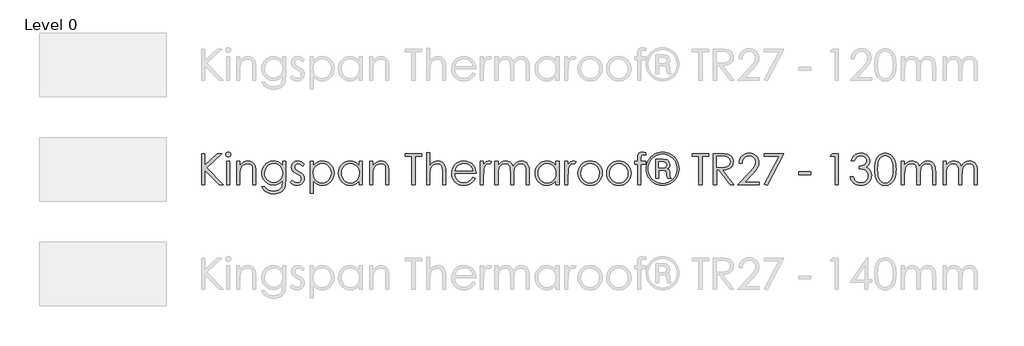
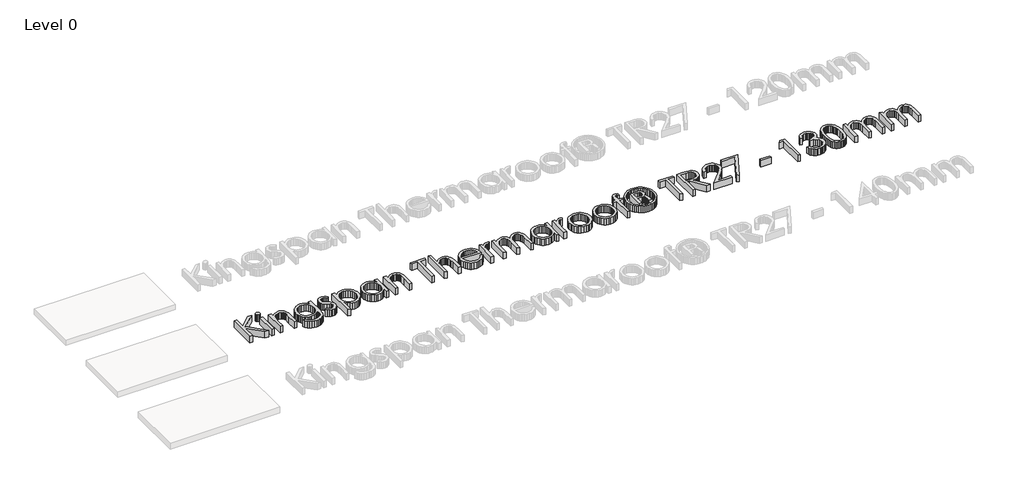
# One storey, part 5 of 12: 1 proxy.
"""IFC4 building model written with IfcOpenShell, lengths in millimetres."""

from ifc_helpers import new_model, si_unit, origin, origin_with_axes, place, context, project, spatial, polyline, outline, extrude, element, save

model = new_model("IFC4")

# Units and contexts
model_context = context("Model", 3, world=origin())
ifc_project = project(units=[si_unit("LENGTHUNIT", "METRE", prefix="MILLI")], contexts=[model_context])

# Site, building, storey
site = spatial("IfcSite", under=ifc_project)
building = spatial("IfcBuilding", under=site)
storey = spatial("IfcBuildingStorey", under=building, Name="Level 0", Elevation=0.0)

# Proxy
placement = place(None, origin())
element("IfcBuildingElementProxy", 1, Name="600mm KI_CenturyGothic", ObjectType="600mm KI_CenturyGothic", at=placement, inside=storey, context=model_context, shape_type="SweptSolid", body=[
    extrude(outline(polyline([(-3852.2663848, -7959.1038452), (-3792.944575, -7959.1038452), (-3792.944575, -8178.3164705), (-3555.1938841, -7959.1038452), (-3471.6181051, -7959.1038452), (-3760.9664119, -8226.0519894), (-3441.9572002, -8552.3219434), (-3520.8984627, -8552.3219434), (-3792.944575, -8274.096476), (-3792.944575, -8552.3219434), (-3852.2663848, -8552.3219434), (-3852.2663848, -7959.1038452)])), origin_with_axes(), (0.0, 0.0, 1.0), 150.0),
    extrude(outline(polyline([(-3348.1854852, -7929.4429403), (-3329.145347, -7932.7257227), (-3313.1176445, -7942.57407), (-3302.226531, -7957.0183128), (-3298.5961598, -7974.0887815), (-3302.226531, -7990.9275244), (-3313.1176445, -8005.2945252), (-3329.145347, -8015.1428726), (-3348.1854852, -8018.425655), (-3366.9938975, -8015.1428726), (-3382.9443581, -8005.2945252), (-3393.8354717, -7990.9275244), (-3397.4658428, -7974.0887815), (-3393.8354717, -7957.0183128), (-3382.9443581, -7942.57407), (-3366.9938975, -7932.7257227), (-3348.1854852, -7929.4429403)])), origin_with_axes(), (0.0, 0.0, 1.0), 150.0),
    extrude(outline(polyline([(-3377.6919062, -8107.4083697), (-3318.3700964, -8107.4083697), (-3318.3700964, -8552.3219434), (-3377.6919062, -8552.3219434), (-3377.6919062, -8107.4083697)])), origin_with_axes(), (0.0, 0.0, 1.0), 150.0),
    extrude(outline(polyline([(-3189.8395084, -8107.4083697), (-3130.5176986, -8107.4083697), (-3130.5176986, -8186.5041162), (-3096.9946967, -8146.9948639), (-3060.0730495, -8119.3036285), (-3019.7141359, -8102.9669582), (-2975.879335, -8097.5214014), (-2953.4357238, -8099.1000336), (-2932.2955704, -8103.83593), (-2912.4588747, -8111.7290907), (-2893.9256368, -8122.7795158), (-2877.212412, -8136.504443), (-2862.835756, -8152.4211102), (-2841.0921499, -8190.8296648), (-2833.6238199, -8215.2091521), (-2828.2892984, -8245.5555792), (-2824.0216812, -8324.149253), (-2824.0216812, -8552.3219434), (-2883.343491, -8552.3219434), (-2883.343491, -8339.1341894), (-2883.343491, -8236.0934416), (-2884.7290183, -8215.2960493), (-2889.8125035, -8197.2407458), (-2898.2849788, -8181.9275312), (-2910.1464442, -8169.3564055), (-2924.7403432, -8159.5563344), (-2941.4101193, -8152.5562836), (-2980.977303, -8146.956243), (-3005.3471351, -8149.1141896), (-3028.4038541, -8155.5880297), (-3050.1474602, -8166.3777632), (-3070.5779533, -8181.4833901), (-3088.6622225, -8199.7655917), (-3103.3671568, -8220.0850495), (-3114.6927562, -8242.4417635), (-3122.6390208, -8266.8357336), (-3128.5480292, -8313.914696), (-3130.5176986, -8388.414547), (-3130.5176986, -8552.3219434), (-3189.8395084, -8552.3219434), (-3189.8395084, -8107.4083697)])), origin_with_axes(), (0.0, 0.0, 1.0), 150.0),
    extrude(outline(polyline([(-2319.7862977, -8107.4083697), (-2260.4644879, -8107.4083697), (-2260.4644879, -8458.3957445), (-2264.5196897, -8538.6501201), (-2269.588692, -8569.4503436), (-2276.6852953, -8594.0325909), (-2289.9371156, -8622.645902), (-2307.2924139, -8647.7736706), (-2328.7511904, -8669.4158966), (-2354.3134448, -8687.5725801), (-2383.3226209, -8701.9347533), (-2415.122162, -8712.1934485), (-2449.7120682, -8718.3486656), (-2487.0923395, -8720.4004046), (-2541.0458345, -8716.3838237), (-2589.206184, -8704.3340811), (-2630.260275, -8685.5063582), (-2662.8949946, -8661.1558367), (-2690.2000204, -8627.8066292), (-2715.2650299, -8581.9828483), (-2655.94322, -8581.9828483), (-2642.4355358, -8603.1519675), (-2627.0933555, -8621.3955481), (-2609.9166791, -8636.7135903), (-2590.9055067, -8649.1060941), (-2569.7894914, -8658.6696118), (-2546.2982864, -8665.5006958), (-2492.1903075, -8670.9655631), (-2438.5071593, -8665.6358692), (-2415.083541, -8658.9737519), (-2393.93856, -8649.6467877), (-2359.6624492, -8625.6052339), (-2336.8567664, -8596.1181233), (-2329.3884364, -8577.4786777), (-2324.0539149, -8553.7702298), (-2319.7862977, -8491.146327), (-2319.7862977, -8468.4371967), (-2354.757586, -8504.2195254), (-2396.6420279, -8530.6169583), (-2443.392712, -8546.8956971), (-2492.9627269, -8552.3219434), (-2522.4063889, -8550.4246883), (-2550.9521133, -8544.7329228), (-2578.5999001, -8535.2466471), (-2605.3497494, -8521.965861), (-2630.1540674, -8505.4747069), (-2651.9652601, -8486.3573268), (-2670.7833277, -8464.6137207), (-2686.6082702, -8440.2438887), (-2699.1456025, -8413.9285253), (-2708.1008399, -8386.3483251), (-2713.4739824, -8357.5032882), (-2715.2650299, -8327.3934145), (-2713.3967404, -8297.1049188), (-2707.7918722, -8267.8784998), (-2698.4504251, -8239.7141575), (-2685.3723991, -8212.6118918), (-2668.9971079, -8187.4261918), (-2649.7638648, -8165.0115464), (-2627.67267, -8145.3679556), (-2602.7235235, -8128.4954193), (-2575.9833294, -8114.9442865), (-2548.5189922, -8105.2649059), (-2520.3305117, -8099.4572776), (-2491.4178881, -8097.5214014), (-2444.5320306, -8102.4648856), (-2400.8903346, -8117.295338), (-2359.6045177, -8143.8665654), (-2319.7862977, -8184.0323741), (-2319.7862977, -8107.4083697)]), holes=[polyline([(-2484.1571458, -8146.956243), (-2529.0154023, -8152.9811143), (-2570.5908765, -8171.0557282), (-2606.2187212, -8199.7704193), (-2633.2340897, -8237.7155223), (-2650.2659375, -8281.9944643), (-2655.94322, -8329.7106727), (-2653.0080263, -8365.6233471), (-2644.2024452, -8398.2822048), (-2629.5264766, -8427.6872458), (-2608.9801206, -8453.8384701), (-2583.7606272, -8475.2972465), (-2555.0652466, -8490.6249439), (-2522.8939786, -8499.8215624), (-2487.2468234, -8502.8871019), (-2451.3244937, -8499.8457005), (-2419.1001219, -8490.7214964), (-2390.573708, -8475.5144895), (-2365.7452519, -8454.2246798), (-2345.6382095, -8427.9817307), (-2331.2760363, -8397.9153056), (-2322.6587323, -8364.0254045), (-2319.7862977, -8326.3120273), (-2325.0773706, -8277.6109843), (-2340.9505892, -8234.3941189), (-2366.4983608, -8198.1676491), (-2400.8130926, -8170.4377927), (-2440.9982119, -8152.8266304), (-2484.1571458, -8146.956243)])]), origin_with_axes(), (0.0, 0.0, 1.0), 150.0),
    extrude(outline(polyline([(-1904.5336289, -8158.6970178), (-1940.9918246, -8196.3910845), (-1962.9575012, -8174.7633413), (-1984.6721416, -8159.3149533), (-2006.1357456, -8150.0459205), (-2027.3483133, -8146.956243), (-2052.181597, -8151.6293803), (-2073.2300256, -8165.6487924), (-2087.5970264, -8185.8861806), (-2092.3860267, -8209.2132465), (-2088.4466878, -8230.7637477), (-2076.628671, -8251.2328618), (-2052.0657341, -8273.4012985), (-2010.2006027, -8299.1228645), (-1958.3326401, -8331.9893099), (-1939.8428507, -8347.8142524), (-1926.315856, -8363.2336746), (-1909.9791857, -8395.9070152), (-1904.5336289, -8432.4424527), (-1906.9474396, -8458.5888494), (-1914.1888714, -8482.6497136), (-1926.2579245, -8504.6250455), (-1943.1545989, -8524.5148451), (-1963.6719892, -8541.0059992), (-1986.6031901, -8552.7853951), (-2011.9482016, -8559.8530326), (-2039.7070237, -8562.2089117), (-2077.4397114, -8558.3275042), (-2113.3958344, -8546.6832818), (-2145.4512394, -8528.2031477), (-2171.4817731, -8503.8140052), (-2135.7959969, -8463.3392287), (-2114.0041146, -8484.9669718), (-2091.5749863, -8500.4153598), (-2068.5086121, -8509.6843926), (-2044.8049918, -8512.7740702), (-2013.637869, -8507.1354086), (-1987.4914724, -8490.2194238), (-1969.7644472, -8465.6564869), (-1963.8554388, -8437.0769691), (-1967.7561567, -8413.2864516), (-1979.4583106, -8392.276644), (-2005.0253927, -8370.5716589), (-2050.2119275, -8343.7687058), (-2099.762632, -8313.1036556), (-2117.441381, -8297.9449249), (-2130.3890611, -8282.9020571), (-2146.3781427, -8250.7694101), (-2151.7078365, -8214.3112145), (-2149.5305794, -8190.2648331), (-2142.9988078, -8168.3329498), (-2132.1125219, -8148.5155646), (-2116.8717217, -8130.8126775), (-2098.309518, -8116.2477442), (-2077.4590218, -8105.8442205), (-2054.3202332, -8099.6021062), (-2028.8931521, -8097.5214014), (-1997.9481, -8101.3448775), (-1966.9064954, -8112.8153055), (-1935.7683384, -8131.9326856), (-1904.5336289, -8158.6970178)])), origin_with_axes(), (0.0, 0.0, 1.0), 150.0),
    extrude(outline(polyline([(-1795.7769776, -8107.4083697), (-1736.4551678, -8107.4083697), (-1736.4551678, -8188.5124066), (-1700.9238754, -8148.2693559), (-1660.4490989, -8119.921564), (-1614.9922173, -8103.1214421), (-1564.5146096, -8097.5214014), (-1520.0618732, -8101.7600529), (-1478.9305402, -8114.4760072), (-1441.1206107, -8135.6692645), (-1406.6320845, -8165.3398246), (-1377.9077381, -8200.9773247), (-1357.3903478, -8240.0714015), (-1345.0799137, -8282.6220551), (-1340.9764356, -8328.6292855), (-1345.0412927, -8375.5296259), (-1357.235864, -8418.7513189), (-1377.5601494, -8458.2943645), (-1406.014149, -8494.1587627), (-1440.2130179, -8523.9307029), (-1477.7719111, -8545.1963745), (-1518.6908288, -8557.9557774), (-1562.9697708, -8562.2089117), (-1612.6170277, -8556.7440445), (-1658.0545988, -8540.3494427), (-1699.3211052, -8513.1023484), (-1736.4551678, -8475.0800035), (-1736.4551678, -8710.5134363), (-1795.7769776, -8710.5134363), (-1795.7769776, -8107.4083697)]), holes=[polyline([(-1568.5311905, -8146.956243), (-1602.5852307, -8150.2535083), (-1633.8392507, -8160.1453042), (-1662.2932503, -8176.6316307), (-1687.9472295, -8199.7124879), (-1709.1694525, -8227.6982082), (-1724.3281832, -8258.8991243), (-1733.4234216, -8293.3152362), (-1736.4551678, -8330.9465437), (-1731.048232, -8379.8020707), (-1714.8274246, -8423.4823877), (-1688.5265441, -8460.326793), (-1652.8793888, -8488.674585), (-1611.4390881, -8506.7491989), (-1567.7587711, -8512.7740702), (-1525.0632888, -8506.7105779), (-1485.0326535, -8488.5201011), (-1450.2544701, -8459.4192002), (-1423.3163435, -8420.6244359), (-1406.05277, -8375.9592842), (-1400.2982454, -8329.2472211), (-1405.9948385, -8282.3034321), (-1423.0846177, -8237.8700062), (-1449.8103289, -8199.519383), (-1484.414718, -8170.8240024), (-1524.7157001, -8152.9231828), (-1568.5311905, -8146.956243)])]), origin_with_axes(), (0.0, 0.0, 1.0), 150.0),
    extrude(outline(polyline([(-807.0801472, -8107.4083697), (-807.0801472, -8552.3219434), (-866.401957, -8552.3219434), (-866.401957, -8476.4703585), (-903.4780882, -8514.318909), (-944.8797679, -8541.0446202), (-990.4525125, -8556.9178388), (-1040.0418379, -8562.2089117), (-1084.3159523, -8557.9557774), (-1125.2203871, -8545.1963745), (-1162.7551422, -8523.9307029), (-1196.9202178, -8494.1587627), (-1225.340424, -8458.2943645), (-1245.6405713, -8418.7513189), (-1257.8206597, -8375.5296259), (-1261.8806892, -8328.6292855), (-1257.7820388, -8282.6220551), (-1245.4860875, -8240.0714015), (-1224.9928353, -8200.9773247), (-1196.3022822, -8165.3398246), (-1161.8475494, -8135.6692645), (-1124.061758, -8114.4760072), (-1082.9449079, -8101.7600529), (-1038.4969991, -8097.5214014), (-987.7490446, -8103.1214421), (-942.0990581, -8119.921564), (-921.2051134, -8132.6085526), (-901.6242816, -8148.2693559), (-866.401957, -8188.5124066), (-866.401957, -8107.4083697), (-807.0801472, -8107.4083697)]), holes=[polyline([(-1034.3259343, -8146.956243), (-1078.1414247, -8152.9231828), (-1118.4424068, -8170.8240024), (-1153.0467959, -8199.519383), (-1179.7725071, -8237.8700062), (-1196.8622863, -8282.3034321), (-1202.5588794, -8329.2472211), (-1196.8043548, -8375.9592842), (-1179.5407813, -8420.6244359), (-1152.6026548, -8459.4192002), (-1117.8244713, -8488.5201011), (-1077.6779731, -8506.7105779), (-1034.6349021, -8512.7740702), (-991.0125165, -8506.7491989), (-949.7460102, -8488.674585), (-914.2726493, -8460.326793), (-888.0297002, -8423.4823877), (-871.8088928, -8379.8020707), (-866.401957, -8330.9465437), (-869.4337032, -8293.3152362), (-878.5289416, -8258.8991243), (-893.6876723, -8227.6982082), (-914.9098953, -8199.7124879), (-940.5638746, -8176.6316307), (-969.0178742, -8160.1453042), (-1000.2718941, -8150.2535083), (-1034.3259343, -8146.956243)])]), origin_with_axes(), (0.0, 0.0, 1.0), 150.0),
    extrude(outline(polyline([(-668.662591, -8107.4083697), (-609.3407811, -8107.4083697), (-609.3407811, -8186.5041162), (-575.8177792, -8146.9948639), (-538.896132, -8119.3036285), (-498.5372184, -8102.9669582), (-454.7024175, -8097.5214014), (-432.2588064, -8099.1000336), (-411.1186529, -8103.83593), (-391.2819572, -8111.7290907), (-372.7487193, -8122.7795158), (-356.0354946, -8136.504443), (-341.6588385, -8152.4211102), (-319.9152324, -8190.8296648), (-312.4469024, -8215.2091521), (-307.1123809, -8245.5555792), (-302.8447637, -8324.149253), (-302.8447637, -8552.3219434), (-362.1665735, -8552.3219434), (-362.1665735, -8339.1341894), (-362.1665735, -8236.0934416), (-363.5521008, -8215.2960493), (-368.635586, -8197.2407458), (-377.1080613, -8181.9275312), (-388.9695267, -8169.3564055), (-403.5634257, -8159.5563344), (-420.2332018, -8152.5562836), (-459.8003855, -8146.956243), (-484.1702176, -8149.1141896), (-507.2269366, -8155.5880297), (-528.9705427, -8166.3777632), (-549.4010358, -8181.4833901), (-567.485305, -8199.7655917), (-582.1902393, -8220.0850495), (-593.5158387, -8242.4417635), (-601.4621033, -8266.8357336), (-607.3711117, -8313.914696), (-609.3407811, -8388.414547), (-609.3407811, -8552.3219434), (-668.662591, -8552.3219434), (-668.662591, -8107.4083697)])), origin_with_axes(), (0.0, 0.0, 1.0), 150.0),
    extrude(outline(polyline([(3.6512537, -8008.5386867), (3.6512537, -7959.1038452), (320.0342394, -7959.1038452), (320.0342394, -8008.5386867), (191.5036515, -8008.5386867), (191.5036515, -8552.3219434), (132.1818417, -8552.3219434), (132.1818417, -8008.5386867), (3.6512537, -8008.5386867)])), origin_with_axes(), (0.0, 0.0, 1.0), 150.0),
    extrude(outline(polyline([(409.0169542, -7939.3299086), (468.338764, -7939.3299086), (468.338764, -8188.048955), (502.1128022, -8148.3465979), (539.1696229, -8120.0760479), (579.470605, -8103.160063), (622.9771276, -8097.5214014), (645.4207388, -8099.1000336), (666.5608922, -8103.83593), (686.3975879, -8111.7290907), (704.9308258, -8122.7795158), (721.6440506, -8136.4899601), (736.0207066, -8152.3631787), (757.7643127, -8190.597939), (765.2326428, -8214.9050119), (770.5671642, -8245.2659219), (774.8347814, -8324.149253), (774.8347814, -8552.3219434), (715.5129716, -8552.3219434), (715.5129716, -8339.1341894), (714.1226167, -8274.7530325), (709.9515519, -8236.0934416), (696.4342124, -8197.2407458), (686.7210385, -8181.9275312), (675.0381951, -8169.3564055), (661.3953375, -8159.5563344), (645.8021209, -8152.5562836), (608.7646107, -8146.956243), (585.8961689, -8149.1141896), (564.2539428, -8155.5880297), (543.8379326, -8166.3777632), (524.6481382, -8181.4833901), (507.659739, -8199.7655917), (493.8479146, -8220.0850495), (483.212665, -8242.4417635), (475.7539902, -8266.8357336), (470.1925705, -8313.6829702), (468.338764, -8388.414547), (468.338764, -8552.3219434), (409.0169542, -8552.3219434), (409.0169542, -7939.3299086)])), origin_with_axes(), (0.0, 0.0, 1.0), 150.0),
    extrude(outline(polyline([(1280.6150037, -8404.0174189), (1328.5050064, -8429.1982913), (1302.8799929, -8471.0827331), (1273.5859872, -8504.045731), (1240.5071264, -8529.130051), (1203.5275477, -8547.3784593), (1162.048626, -8558.5012986), (1115.4717363, -8562.2089117), (1063.9803281, -8557.7771554), (1018.4172388, -8544.4818865), (978.7824684, -8522.323105), (945.0760169, -8491.3008109), (918.1765113, -8454.6977867), (898.9625788, -8415.7968147), (887.4342193, -8374.597895), (883.5914328, -8331.1010276), (886.8742152, -8290.2207309), (896.7225625, -8251.6190715), (913.1364748, -8215.2960493), (936.1159519, -8181.2516643), (972.3038007, -8144.6196743), (1014.1303111, -8118.4539671), (1061.5954832, -8102.7545429), (1114.6993169, -8097.5214014), (1169.3479893, -8102.8897163), (1218.2035163, -8118.9946607), (1261.2658978, -8145.8362348), (1298.5351338, -8183.4144386), (1320.008393, -8215.5857065), (1335.456781, -8251.5418295), (1344.8802977, -8291.2828076), (1348.278943, -8334.8086407), (942.9132426, -8334.8086407), (946.6498214, -8372.0633939), (956.1602353, -8405.813294), (971.4444841, -8436.058341), (992.502568, -8462.7985351), (1017.86689, -8484.6628317), (1046.0698533, -8500.2801864), (1077.1114579, -8509.6505993), (1110.9917037, -8512.7740702), (1144.5147056, -8509.7616345), (1177.1108043, -8500.7243276), (1206.8489511, -8486.685605), (1231.7980977, -8468.6689225), (1255.2796474, -8442.5032154), (1280.6150037, -8404.0174189)]), holes=[polyline([(1288.9571332, -8285.3737992), (1274.5322009, -8242.8521113), (1254.7389538, -8209.831182), (1228.6311782, -8184.3027209), (1195.2626601, -8164.2584375), (1157.3175572, -8151.2817916), (1117.4800267, -8146.956243), (1085.0577224, -8149.6693661), (1054.9912973, -8157.8087355), (1027.2807514, -8171.3743512), (1001.9260846, -8190.3662132), (985.3866543, -8208.1801355), (970.9906877, -8229.9527073), (958.738185, -8255.6839286), (948.6291461, -8285.3737992), (1288.9571332, -8285.3737992)])]), origin_with_axes(), (0.0, 0.0, 1.0), 150.0),
    extrude(outline(polyline([(1427.3746895, -8107.4083697), (1486.6964993, -8107.4083697), (1486.6964993, -8171.8281476), (1512.2442709, -8138.7879078), (1539.1437765, -8115.6732573), (1567.317774, -8102.0593654), (1596.6890217, -8097.5214014), (1620.0160875, -8101.3062565), (1644.8879922, -8112.6608216), (1615.3815711, -8154.6804369), (1586.8020534, -8146.956243), (1560.3853099, -8152.9038723), (1534.8954698, -8170.7467604), (1512.8428959, -8201.1028428), (1496.7379515, -8244.590055), (1489.2068623, -8302.7146147), (1486.6964993, -8400.1553219), (1486.6964993, -8552.3219434), (1427.3746895, -8552.3219434), (1427.3746895, -8107.4083697)])), origin_with_axes(), (0.0, 0.0, 1.0), 150.0),
    extrude(outline(polyline([(1704.209802, -8107.4083697), (1763.5316118, -8107.4083697), (1763.5316118, -8183.5689225), (1793.1152748, -8147.0721059), (1823.4713571, -8121.9298544), (1866.8813274, -8103.6235147), (1912.4540719, -8097.5214014), (1943.2929164, -8100.6690105), (1972.4710592, -8110.1118376), (1998.2312461, -8124.7878062), (2018.8162231, -8143.6348395), (2035.5970345, -8169.0667482), (2049.9447249, -8203.4973429), (2064.7220735, -8179.0985452), (2081.247021, -8157.8087355), (2099.5195674, -8139.6279139), (2119.5397127, -8124.5560804), (2140.83435, -8112.7284083), (2162.9303724, -8104.2800712), (2185.82778, -8099.2110689), (2209.5265726, -8097.5214014), (2251.8551557, -8103.3338574), (2271.0497777, -8110.5994274), (2288.9312868, -8120.7712253), (2305.0458865, -8133.5402835), (2318.9397805, -8148.5976342), (2340.065451, -8185.5772129), (2347.3648143, -8208.9525549), (2352.5786453, -8237.5224175), (2356.74971, -8310.2457038), (2356.74971, -8552.3219434), (2297.4279002, -8552.3219434), (2297.4279002, -8306.6925746), (2294.9754686, -8245.5748897), (2287.6181738, -8207.1277141), (2274.3132497, -8182.6613297), (2254.01793, -8163.4860181), (2227.9487753, -8151.0886867), (2197.3223461, -8146.956243), (2177.6739277, -8148.5059094), (2158.894481, -8153.1549086), (2123.9425033, -8171.7509057), (2095.2085016, -8200.6973226), (2075.434565, -8237.9472481), (2068.743482, -8262.1046648), (2063.9641369, -8293.1752351), (2060.1406609, -8376.0558366), (2060.1406609, -8552.3219434), (2000.8188511, -8552.3219434), (2000.8188511, -8321.9864787), (1998.4050405, -8253.5308095), (1991.1636086, -8211.2987789), (1977.9166159, -8185.0558298), (1957.4861228, -8164.5674052), (1931.1659318, -8151.3590335), (1900.2498454, -8146.956243), (1863.3088876, -8153.0004247), (1828.801051, -8171.1329701), (1799.8353235, -8199.5000726), (1779.5206934, -8236.2479254), (1767.5288822, -8288.0772671), (1763.5316118, -8361.6888358), (1763.5316118, -8552.3219434), (1704.209802, -8552.3219434), (1704.209802, -8107.4083697)])), origin_with_axes(), (0.0, 0.0, 1.0), 150.0),
    extrude(outline(polyline([(2920.3069034, -8107.4083697), (2920.3069034, -8552.3219434), (2860.9850935, -8552.3219434), (2860.9850935, -8476.4703585), (2823.9089624, -8514.318909), (2782.5072826, -8541.0446202), (2736.9345381, -8556.9178388), (2687.3452127, -8562.2089117), (2643.0710983, -8557.9557774), (2602.1666635, -8545.1963745), (2564.6319083, -8523.9307029), (2530.4668328, -8494.1587627), (2502.0466266, -8458.2943645), (2481.7464792, -8418.7513189), (2469.5663908, -8375.5296259), (2465.5063614, -8328.6292855), (2469.6050118, -8282.6220551), (2481.9009631, -8240.0714015), (2502.3942153, -8200.9773247), (2531.0847683, -8165.3398246), (2565.5395011, -8135.6692645), (2603.3252926, -8114.4760072), (2644.4421427, -8101.7600529), (2688.8900515, -8097.5214014), (2739.638006, -8103.1214421), (2785.2879925, -8119.921564), (2806.1819372, -8132.6085526), (2825.7627689, -8148.2693559), (2860.9850935, -8188.5124066), (2860.9850935, -8107.4083697), (2920.3069034, -8107.4083697)]), holes=[polyline([(2693.0611162, -8146.956243), (2649.2456259, -8152.9231828), (2608.9446437, -8170.8240024), (2574.3402547, -8199.519383), (2547.6145435, -8237.8700062), (2530.5247643, -8282.3034321), (2524.8281712, -8329.2472211), (2530.5826957, -8375.9592842), (2547.8462693, -8420.6244359), (2574.7843958, -8459.4192002), (2609.5625792, -8488.5201011), (2649.7090775, -8506.7105779), (2692.7521485, -8512.7740702), (2736.374534, -8506.7491989), (2777.6410404, -8488.674585), (2813.1144013, -8460.326793), (2839.3573504, -8423.4823877), (2855.5781577, -8379.8020707), (2860.9850935, -8330.9465437), (2857.9533474, -8293.3152362), (2848.858109, -8258.8991243), (2833.6993783, -8227.6982082), (2812.4771553, -8199.7124879), (2786.823176, -8176.6316307), (2758.3691764, -8160.1453042), (2727.1151565, -8150.2535083), (2693.0611162, -8146.956243)])]), origin_with_axes(), (0.0, 0.0, 1.0), 150.0),
    extrude(outline(polyline([(3029.0635547, -8107.4083697), (3088.3853645, -8107.4083697), (3088.3853645, -8171.8281476), (3113.9331361, -8138.7879078), (3140.8326417, -8115.6732573), (3169.0066393, -8102.0593654), (3198.3778869, -8097.5214014), (3221.7049527, -8101.3062565), (3246.5768574, -8112.6608216), (3217.0704364, -8154.6804369), (3188.4909186, -8146.956243), (3162.0741752, -8152.9038723), (3136.584335, -8170.7467604), (3114.5317612, -8201.1028428), (3098.4268167, -8244.590055), (3090.8957276, -8302.7146147), (3088.3853645, -8400.1553219), (3088.3853645, -8552.3219434), (3029.0635547, -8552.3219434), (3029.0635547, -8107.4083697)])), origin_with_axes(), (0.0, 0.0, 1.0), 150.0),
    extrude(outline(polyline([(3508.7360013, -8097.5214014), (3558.0453247, -8102.1462626), (3602.932547, -8116.020846), (3643.3976682, -8139.1451518), (3679.4406884, -8171.5191798), (3706.340194, -8206.7511597), (3725.5541265, -8245.0921276), (3737.0824861, -8286.5420835), (3740.9252726, -8331.1010276), (3736.8604155, -8375.9158356), (3724.6658442, -8417.8244156), (3704.3415588, -8456.8267676), (3675.8875592, -8492.9228916), (3641.0514443, -8523.2355254), (3601.580813, -8544.8874067), (3557.4756654, -8557.8785355), (3508.7360013, -8562.2089117), (3459.8611639, -8557.8785355), (3415.6594638, -8544.8874067), (3376.130901, -8523.2355254), (3341.2754757, -8492.9228916), (3312.8214761, -8456.8267676), (3292.4971906, -8417.8244156), (3280.3026194, -8375.9158356), (3276.2377623, -8331.1010276), (3280.0805488, -8286.7351884), (3291.6089083, -8245.4010953), (3310.8228409, -8207.0987484), (3337.7223464, -8171.8281476), (3373.7846771, -8139.3189461), (3414.3077298, -8116.098088), (3459.2915046, -8102.1655731), (3508.7360013, -8097.5214014)]), holes=[polyline([(3508.5815174, -8146.956243), (3474.3054066, -8150.3307502), (3442.5396588, -8160.4542719), (3413.2842741, -8177.3268082), (3386.5392524, -8200.9483589), (3364.2356423, -8229.3589099), (3348.3044922, -8260.598447), (3338.7458021, -8294.6669701), (3335.5595721, -8331.5644793), (3341.3720281, -8379.2999981), (3358.809396, -8423.6368716), (3386.1530427, -8461.4274907), (3421.6843351, -8489.5242463), (3463.2211882, -8506.9616142), (3508.5815174, -8512.7740702), (3553.9418466, -8506.9616142), (3595.4786998, -8489.5242463), (3631.0099921, -8461.4274907), (3658.3536389, -8423.6368716), (3675.7910068, -8379.2999981), (3681.6034628, -8331.5644793), (3678.4027499, -8294.6669701), (3668.8006112, -8260.598447), (3652.7970468, -8229.3589099), (3630.3920566, -8200.9483589), (3603.5746206, -8177.3268082), (3574.3337188, -8160.4542719), (3542.669351, -8150.3307502), (3508.5815174, -8146.956243)])]), origin_with_axes(), (0.0, 0.0, 1.0), 150.0),
    extrude(outline(polyline([(4052.519258, -8097.5214014), (4101.8285814, -8102.1462626), (4146.7158037, -8116.020846), (4187.180925, -8139.1451518), (4223.2239452, -8171.5191798), (4250.1234507, -8206.7511597), (4269.3373833, -8245.0921276), (4280.8657428, -8286.5420835), (4284.7085293, -8331.1010276), (4280.6436722, -8375.9158356), (4268.4491009, -8417.8244156), (4248.1248155, -8456.8267676), (4219.6708159, -8492.9228916), (4184.834701, -8523.2355254), (4145.3640698, -8544.8874067), (4101.2589221, -8557.8785355), (4052.519258, -8562.2089117), (4003.6444206, -8557.8785355), (3959.4427205, -8544.8874067), (3919.9141578, -8523.2355254), (3885.0587324, -8492.9228916), (3856.6047328, -8456.8267676), (3836.2804474, -8417.8244156), (3824.0858761, -8375.9158356), (3820.021019, -8331.1010276), (3823.8638055, -8286.7351884), (3835.392165, -8245.4010953), (3854.6060976, -8207.0987484), (3881.5056031, -8171.8281476), (3917.5679338, -8139.3189461), (3958.0909865, -8116.098088), (4003.0747613, -8102.1655731), (4052.519258, -8097.5214014)]), holes=[polyline([(4052.3647741, -8146.956243), (4018.0886633, -8150.3307502), (3986.3229156, -8160.4542719), (3957.0675308, -8177.3268082), (3930.3225091, -8200.9483589), (3908.018899, -8229.3589099), (3892.0877489, -8260.598447), (3882.5290589, -8294.6669701), (3879.3428288, -8331.5644793), (3885.1552848, -8379.2999981), (3902.5926527, -8423.6368716), (3929.9362994, -8461.4274907), (3965.4675918, -8489.5242463), (4007.004445, -8506.9616142), (4052.3647741, -8512.7740702), (4097.7251033, -8506.9616142), (4139.2619565, -8489.5242463), (4174.7932489, -8461.4274907), (4202.1368956, -8423.6368716), (4219.5742635, -8379.2999981), (4225.3867195, -8331.5644793), (4222.1860066, -8294.6669701), (4212.5838679, -8260.598447), (4196.5803035, -8229.3589099), (4174.1753133, -8200.9483589), (4147.3578773, -8177.3268082), (4118.1169755, -8160.4542719), (4086.4526077, -8150.3307502), (4052.3647741, -8146.956243)])]), origin_with_axes(), (0.0, 0.0, 1.0), 150.0),
    extrude(outline(polyline([(4561.5436418, -7940.7202635), (4561.5436418, -7992.3178793), (4535.2813822, -7982.2378062), (4513.0357036, -7978.8777818), (4499.3059487, -7980.557794), (4488.086557, -7985.5978306), (4479.9761533, -7992.8199519), (4475.5733627, -8001.0462185), (4473.0243787, -8047.6231083), (4473.0243787, -8107.4083697), (4561.5436418, -8107.4083697), (4561.5436418, -8156.8432113), (4472.8698948, -8156.8432113), (4472.8698948, -8552.3219434), (4413.2391172, -8552.3219434), (4413.2391172, -8156.8432113), (4353.9173074, -8156.8432113), (4353.9173074, -8107.4083697), (4413.2391172, -8107.4083697), (4413.2391172, -8039.8989143), (4415.3246496, -8000.0613838), (4421.5812467, -7973.5480879), (4432.8392595, -7955.6279579), (4449.9290387, -7941.5699248), (4472.000923, -7932.4746864), (4498.2052511, -7929.4429403), (4527.2482205, -7932.2622711), (4561.5436418, -7940.7202635)])), origin_with_axes(), (0.0, 0.0, 1.0), 150.0),
    extrude(outline(polyline([(5194.3096132, -8245.2079905), (5191.7075254, -8287.1503638), (5183.9012619, -8327.5478984), (5170.8908226, -8366.4005941), (5152.6762077, -8403.7084511), (5129.9284564, -8438.3466335), (5103.3186081, -8469.1903056), (5072.8466628, -8496.2394674), (5038.5126205, -8519.494119), (5001.5958009, -8538.1818408), (4963.3755235, -8551.5302135), (4923.8517884, -8559.5392372), (4883.0245956, -8562.2089117), (4842.2649894, -8559.55372), (4802.7895305, -8551.588145), (4764.5982189, -8538.3121866), (4727.6910545, -8519.7258448), (4693.3425293, -8496.5580904), (4662.8271355, -8469.5378944), (4636.1448729, -8438.6652565), (4613.2957415, -8403.9401769), (4594.9797465, -8366.6371476), (4581.896893, -8328.0306605), (4574.0471808, -8288.1207157), (4571.4306101, -8246.9073132), (4574.0471808, -8205.2401142), (4581.896893, -8164.8956835), (4594.9797465, -8125.874021), (4613.2957415, -8088.1751267), (4636.13039, -8053.1217689), (4662.769204, -8022.0367157), (4693.2121836, -7994.9199672), (4727.4593286, -7971.7715233), (4764.2940787, -7953.2527682), (4802.4998732, -7940.025086), (4842.0767122, -7932.0884767), (4883.0245956, -7929.4429403), (4923.9531684, -7932.0739938), (4963.4720759, -7939.9671546), (5001.581318, -7953.1224225), (5038.2808947, -7971.5397975), (5072.4025216, -7994.5868613), (5102.7779145, -8021.6311955), (5129.4070733, -8052.6728001), (5152.289998, -8087.7116751), (5170.6735796, -8125.3333274), (5183.8047094, -8164.1232641), (5191.6833873, -8204.0814851), (5194.3096132, -8245.2079905)]), holes=[polyline([(5154.76174, -8245.825926), (5152.4782752, -8209.6815258), (5145.6278806, -8174.6281679), (5134.2105564, -8140.6658525), (5118.2263025, -8107.7945794), (5098.3220201, -8077.1922884), (5075.1446105, -8050.0369189), (5048.6940737, -8026.328471), (5018.9704097, -8006.0669446), (4987.0115571, -7989.8461372), (4953.8554544, -7978.2598463), (4919.5021017, -7971.3080717), (4883.9514988, -7968.9908135), (4848.1353768, -7971.3080717), (4813.4489182, -7978.2598463), (4779.892123, -7989.8461372), (4747.4649911, -8006.0669446), (4717.3116688, -8026.328471), (4690.5763024, -8050.0369189), (4667.2588918, -8077.1922884), (4647.359437, -8107.7945794), (4631.4427698, -8140.7141287), (4620.0737217, -8174.8212728), (4613.2522929, -8210.1160117), (4610.9784833, -8246.5983454), (4613.2522929, -8282.9068848), (4620.0737217, -8317.9892083), (4631.4427698, -8351.8453161), (4647.359437, -8384.4752081), (4667.268547, -8414.8071523), (4690.6149233, -8441.769417), (4717.398566, -8465.362002), (4747.619475, -8485.5849074), (4780.0948831, -8501.8057147), (4813.6420231, -8513.3920057), (4848.260895, -8520.3437803), (4883.9514988, -8522.6610385), (4919.3234797, -8520.3292974), (4953.6044181, -8513.3340743), (4986.7943142, -8501.675369), (5018.8931678, -8485.3531815), (5048.7761433, -8465.043379), (5075.3184049, -8441.4218282), (5098.5199526, -8414.4885293), (5118.3807864, -8384.2434822), (5134.2974536, -8351.6666941), (5145.6665016, -8317.738172), (5152.4879304, -8282.457916), (5154.76174, -8245.825926)])]), origin_with_axes(), (0.0, 0.0, 1.0), 150.0),
    extrude(outline(polyline([(4749.3960396, -8067.8604965), (4893.5294994, -8067.8604965), (4936.9587801, -8070.467412), (4966.2141648, -8078.2881584), (4986.3356901, -8092.0179132), (5002.3633927, -8112.3518539), (5012.848986, -8137.957557), (5016.3441838, -8167.502599), (5014.722103, -8192.7993343), (5009.8558608, -8214.3112145), (4997.0336988, -8229.5664976), (4974.6335362, -8246.2893776), (4995.2957552, -8258.9763663), (5007.8475704, -8273.5557824), (5014.2200304, -8294.6621425), (5016.3441838, -8326.9299629), (5016.3441838, -8367.0957716), (5021.4035308, -8393.0490634), (5036.581572, -8414.3678388), (5046.0050887, -8423.7913555), (4976.7963106, -8423.7913555), (4967.7590036, -8399.6532493), (4961.9658581, -8371.4213202), (4957.022374, -8327.8568661), (4954.4540795, -8307.3298206), (4949.8388735, -8293.9476545), (4942.9836514, -8285.5089726), (4933.6953081, -8279.8123795), (4918.0151943, -8276.5682181), (4891.9846606, -8275.4868309), (4808.7178494, -8275.4868309), (4808.7178494, -8423.7913555), (4749.3960396, -8423.7913555), (4749.3960396, -8067.8604965)]), holes=[polyline([(4808.7178494, -8117.295338), (4808.7178494, -8226.0519894), (4888.5860152, -8226.0519894), (4919.1738234, -8223.7347312), (4938.0208567, -8216.7829566), (4946.3340205, -8208.8946235), (4952.2719947, -8198.6697217), (4957.022374, -8171.2102121), (4953.6044181, -8146.9948639), (4943.3505506, -8130.2719839), (4923.6345454, -8120.5394995), (4891.8301767, -8117.295338), (4808.7178494, -8117.295338)])]), origin_with_axes(), (0.0, 0.0, 1.0), 150.0),
    extrude(outline(polyline([(5441.4838208, -8008.5386867), (5441.4838208, -7959.1038452), (5757.8668066, -7959.1038452), (5757.8668066, -8008.5386867), (5629.3362186, -8008.5386867), (5629.3362186, -8552.3219434), (5570.0144088, -8552.3219434), (5570.0144088, -8008.5386867), (5441.4838208, -8008.5386867)])), origin_with_axes(), (0.0, 0.0, 1.0), 150.0),
    extrude(outline(polyline([(5846.8495213, -7959.1038452), (5966.5745281, -7959.1038452), (6050.4206538, -7961.0348937), (6102.0568906, -7966.8280392), (6127.5370756, -7974.3639559), (6150.5262079, -7985.2309313), (6171.0242877, -7999.4289654), (6189.0313149, -8016.9580581), (6203.6976283, -8037.2582055), (6214.1735664, -8059.7694033), (6220.4591292, -8084.4916517), (6222.5543169, -8111.4249506), (6216.7804818, -8155.279062), (6209.5631881, -8175.1061024), (6199.4589768, -8193.5331327), (6186.6754358, -8210.1739431), (6171.4201527, -8224.642324), (6133.4943602, -8247.061797), (6110.0176381, -8254.9984064), (6082.4567484, -8260.7336204), (6015.0824664, -8265.5998626), (6232.4412852, -8552.3219434), (6160.4517972, -8552.3219434), (5943.0929784, -8265.5998626), (5906.1713311, -8265.5998626), (5906.1713311, -8552.3219434), (5846.8495213, -8552.3219434), (5846.8495213, -7959.1038452)]), holes=[polyline([(5906.1713311, -8008.5386867), (5906.1713311, -8216.1650211), (6011.0658855, -8216.7829566), (6064.1310982, -8213.8863839), (6101.2844713, -8205.1966656), (6127.276384, -8190.1151769), (6146.8572158, -8168.0432925), (6159.1386842, -8140.9893031), (6163.232507, -8110.961499), (6159.0807528, -8081.7447352), (6146.62549, -8055.2700603), (6127.4308679, -8033.7388696), (6103.0610359, -8019.3525583), (6067.2014653, -8011.2421546), (6013.5376276, -8008.5386867), (5906.1713311, -8008.5386867)])]), origin_with_axes(), (0.0, 0.0, 1.0), 150.0),
    extrude(outline(polyline([(6390.632778, -8137.0692746), (6331.3109682, -8137.0692746), (6335.7958283, -8097.8110587), (6346.9331505, -8062.2218349), (6364.7229348, -8030.3016033), (6389.1651812, -8002.0503637), (6418.5605669, -7978.9357132), (6451.2097694, -7962.4252486), (6487.1127885, -7952.5189698), (6526.2696244, -7949.2168769), (6564.7409381, -7952.5141422), (6599.35981, -7962.4059381), (6630.1262402, -7978.8922647), (6657.0402286, -8001.9731218), (6678.9045253, -8029.5340115), (6694.52188, -8059.4604356), (6703.8922928, -8091.752394), (6707.0157637, -8126.4098869), (6700.932961, -8175.2074825), (6682.6845527, -8220.8767794), (6646.902224, -8272.7640525), (6588.2176602, -8340.2155765), (6435.4331031, -8502.8871019), (6716.902732, -8502.8871019), (6716.902732, -8552.3219434), (6311.5370316, -8552.3219434), (6537.5469477, -8311.6360588), (6594.2811525, -8246.1155833), (6626.993114, -8200.0214556), (6642.5187439, -8162.6556672), (6647.6939539, -8123.3202094), (6645.4442824, -8098.7138239), (6638.6952679, -8075.8743478), (6627.4469104, -8054.8017811), (6611.6992099, -8035.4961237), (6592.6880375, -8019.3766964), (6571.6492641, -8007.8628197), (6548.5828898, -8000.9544937), (6523.4889146, -7998.6517184), (6497.1542407, -8000.925528), (6473.1464803, -8007.7469568), (6451.4656333, -8019.1160048), (6432.1116997, -8035.0326721), (6415.8764095, -8055.0528174), (6403.5514925, -8078.7322996), (6395.1369486, -8106.0711187), (6390.632778, -8137.0692746)])), origin_with_axes(), (0.0, 0.0, 1.0), 150.0),
    extrude(outline(polyline([(6805.8854468, -7959.1038452), (7181.5902423, -7959.1038452), (6865.2072566, -8562.2089117), (6811.2923826, -8539.8087492), (7089.9813016, -8008.5386867), (6805.8854468, -8008.5386867), (6805.8854468, -7959.1038452)])), origin_with_axes(), (0.0, 0.0, 1.0), 150.0),
    extrude(outline(polyline([(7458.4253548, -8305.1477358), (7685.8256258, -8305.1477358), (7685.8256258, -8354.5825773), (7458.4253548, -8354.5825773), (7458.4253548, -8305.1477358)])), origin_with_axes(), (0.0, 0.0, 1.0), 150.0),
    extrude(outline(polyline([(8095.362391, -7959.1038452), (8209.8349459, -7959.1038452), (8209.8349459, -8552.3219434), (8150.5131361, -8552.3219434), (8150.5131361, -8008.5386867), (8061.5304214, -8008.5386867), (8095.362391, -7959.1038452)])), origin_with_axes(), (0.0, 0.0, 1.0), 150.0),
    extrude(outline(polyline([(8516.3309634, -8097.5214014), (8457.0091535, -8097.5214014), (8467.5333678, -8063.8921919), (8481.9583001, -8034.3761156), (8500.2839503, -8008.9731726), (8522.5103185, -7987.6833629), (8547.7780881, -7970.8542753), (8575.2279425, -7958.8334984), (8604.8598817, -7951.6210323), (8636.6739057, -7949.2168769), (8682.9611381, -7954.3727764), (8726.0428301, -7969.8404748), (8762.829304, -7994.055823), (8790.2308821, -8025.4546715), (8807.2627299, -8061.2370002), (8812.9400125, -8098.6027886), (8808.2572199, -8134.0375285), (8794.2088421, -8165.5715505), (8770.794879, -8193.2048545), (8738.0153308, -8216.9374405), (8775.4004297, -8238.101732), (8805.3703024, -8267.2991853), (8821.6586964, -8291.3986705), (8833.2932636, -8316.8885107), (8840.2740039, -8343.7687058), (8842.6009174, -8372.0392557), (8840.9015947, -8396.7035727), (8835.8036267, -8420.7982303), (8827.3070133, -8444.3232286), (8815.4117545, -8467.2785676), (8800.5813021, -8488.6649297), (8783.2791076, -8507.4829973), (8763.505171, -8523.7327704), (8741.2594923, -8537.414249), (8717.0827651, -8548.2619139), (8691.515683, -8556.010246), (8664.558246, -8560.6592453), (8636.210454, -8562.2089117), (8598.6756989, -8559.5392372), (8564.3947604, -8551.5302135), (8533.3676387, -8538.1818408), (8505.5943337, -8519.494119), (8481.7120914, -8495.6408424), (8462.3581579, -8466.7958055), (8447.532533, -8432.9590082), (8437.2352169, -8394.1304506), (8496.5570267, -8394.1304506), (8515.5971649, -8444.878405), (8527.6951838, -8464.1695795), (8541.5118358, -8479.4055522), (8561.5754296, -8494.0042788), (8584.2266285, -8504.4319407), (8609.4654324, -8510.6885378), (8637.2918412, -8512.7740702), (8668.6520688, -8510.27819), (8696.7681349, -8502.7905495), (8721.6400395, -8490.3111486), (8743.2677827, -8472.8399873), (8760.7727373, -8452.0184569), (8773.2762763, -8429.4879485), (8780.7783998, -8405.2484623), (8783.2791076, -8379.2999981), (8778.277692, -8344.73423), (8763.2734451, -8312.4084782), (8739.8498269, -8285.045521), (8709.5902969, -8265.3681368), (8666.6823993, -8252.5652852), (8605.3136781, -8245.825926), (8605.3136781, -8196.3910845), (8647.19812, -8192.7414028), (8685.104602, -8181.7923578), (8716.1172408, -8165.2046512), (8737.3201533, -8144.6389848), (8749.5436903, -8121.0801931), (8753.6182026, -8095.513111), (8751.5568084, -8076.4826281), (8745.3726256, -8058.7845686), (8735.0656542, -8042.4189326), (8720.6358943, -8027.38572), (8703.0585254, -8014.8145943), (8683.3087269, -8005.8352188), (8661.3864988, -8000.4475935), (8637.2918412, -7998.6517184), (8599.2694963, -8004.2710695), (8566.7699501, -8021.1291229), (8552.4657084, -8034.332667), (8539.29113, -8051.4658948), (8516.3309634, -8097.5214014)])), origin_with_axes(), (0.0, 0.0, 1.0), 150.0),
    extrude(outline(polyline([(8901.9227272, -8255.8673782), (8903.5013594, -8201.4359487), (8908.2372558, -8153.5411183), (8916.1304165, -8112.1828871), (8927.1808415, -8077.3612551), (8941.1085288, -8047.7196607), (8957.6334763, -8021.9015423), (8976.7556841, -7999.9068999), (8998.475152, -7981.7357336), (9022.1691171, -7967.5087338), (9047.2148161, -7957.346591), (9073.6122491, -7951.2493054), (9101.361416, -7949.2168769), (9129.5643793, -7951.2637883), (9156.3962981, -7957.4045225), (9181.8571726, -7967.6390795), (9205.9470026, -7981.9674594), (9228.1299222, -8000.3848344), (9247.8700654, -8022.886377), (9265.1674323, -8049.4720872), (9280.0220229, -8080.141965), (9291.951075, -8115.6587744), (9300.4718265, -8156.7852798), (9305.5842774, -8203.521481), (9307.2884277, -8255.8673782), (9305.6084155, -8308.0539638), (9300.5683789, -8354.6211983), (9292.1683179, -8395.5690817), (9280.4082326, -8430.8976139), (9265.6984707, -8461.422663), (9248.44938, -8487.960097), (9228.6609605, -8510.5099158), (9206.3332123, -8529.0721195), (9182.0744155, -8543.5694661), (9156.4928505, -8553.9247137), (9129.5885174, -8560.1378622), (9101.361416, -8562.2089117), (9073.6363872, -8560.2006213), (9047.3113685, -8554.17575), (9022.3863601, -8544.1342978), (8998.8613617, -8530.0762647), (8977.2867224, -8512.0402718), (8958.2127909, -8490.0649399), (8941.6395672, -8464.150269), (8927.5670512, -8434.2962593), (8916.3476595, -8399.2766948), (8908.3338082, -8357.8653598), (8903.5254975, -8310.0622542), (8901.9227272, -8255.8673782)]), holes=[polyline([(8961.244537, -8255.7128943), (8965.6280171, -8344.0390525), (8971.1073672, -8379.0199961), (8978.7784574, -8407.8795158), (8988.5930114, -8432.1190021), (9000.502753, -8453.239845), (9014.5076822, -8471.2420447), (9030.607799, -8486.1256009), (9065.9073656, -8506.1119529), (9084.3102577, -8511.1085409), (9103.2152225, -8512.7740702), (9122.2070845, -8511.1423342), (9140.5617004, -8506.2471263), (9175.3591944, -8486.6662945), (9191.1165501, -8471.9903259), (9204.8656154, -8454.0701959), (9216.6063903, -8432.9059044), (9226.3388747, -8408.4974514), (9235.8010123, -8375.1385886), (9242.5596821, -8338.5548748), (9247.9666178, -8255.7128943), (9243.1389966, -8174.1067848), (9237.10447, -8139.4154986), (9228.6561329, -8108.7987247), (9218.0739871, -8082.1357725), (9205.6380348, -8059.3059517), (9191.3482759, -8040.3092621), (9175.2047105, -8025.1457038), (9140.1368698, -8005.2752147), (9121.907772, -8000.3075925), (9103.2152225, -7998.6517184), (9084.1992224, -8000.3075925), (9065.7721922, -8005.2752147), (9030.685041, -8025.1457038), (9014.739408, -8039.9568457), (9000.8117207, -8057.8962863), (8988.9019791, -8078.9640254), (8979.0101832, -8103.160063), (8971.237713, -8132.0147552), (8965.6859486, -8167.0584578), (8961.244537, -8255.7128943)])]), origin_with_axes(), (0.0, 0.0, 1.0), 150.0),
    extrude(outline(polyline([(9406.1581107, -8107.4083697), (9465.4799205, -8107.4083697), (9465.4799205, -8183.5689225), (9495.0635835, -8147.0721059), (9525.4196659, -8121.9298544), (9568.8296361, -8103.6235147), (9614.4023806, -8097.5214014), (9645.2412251, -8100.6690105), (9674.4193679, -8110.1118376), (9700.1795548, -8124.7878062), (9720.7645318, -8143.6348395), (9737.5453433, -8169.0667482), (9751.8930336, -8203.4973429), (9766.6703822, -8179.0985452), (9783.1953297, -8157.8087355), (9801.4678761, -8139.6279139), (9821.4880214, -8124.5560804), (9842.7826587, -8112.7284083), (9864.8786811, -8104.2800712), (9887.7760887, -8099.2110689), (9911.4748814, -8097.5214014), (9953.8034644, -8103.3338574), (9972.9980865, -8110.5994274), (9990.8795956, -8120.7712253), (10006.9941953, -8133.5402835), (10020.8880892, -8148.5976342), (10042.0137597, -8185.5772129), (10049.3131231, -8208.9525549), (10054.526954, -8237.5224175), (10058.6980188, -8310.2457038), (10058.6980188, -8552.3219434), (9999.3762089, -8552.3219434), (9999.3762089, -8306.6925746), (9996.9237773, -8245.5748897), (9989.5664826, -8207.1277141), (9976.2615584, -8182.6613297), (9955.9662387, -8163.4860181), (9929.897084, -8151.0886867), (9899.2706549, -8146.956243), (9879.6222364, -8148.5059094), (9860.8427898, -8153.1549086), (9825.890812, -8171.7509057), (9797.1568103, -8200.6973226), (9777.3828737, -8237.9472481), (9770.6917907, -8262.1046648), (9765.9124457, -8293.1752351), (9762.0889696, -8376.0558366), (9762.0889696, -8552.3219434), (9702.7671598, -8552.3219434), (9702.7671598, -8321.9864787), (9700.3533492, -8253.5308095), (9693.1119173, -8211.2987789), (9679.8649246, -8185.0558298), (9659.4344316, -8164.5674052), (9633.1142405, -8151.3590335), (9602.1981541, -8146.956243), (9565.2571964, -8153.0004247), (9530.7493597, -8171.1329701), (9501.7836323, -8199.5000726), (9481.4690021, -8236.2479254), (9469.4771909, -8288.0772671), (9465.4799205, -8361.6888358), (9465.4799205, -8552.3219434), (9406.1581107, -8552.3219434), (9406.1581107, -8107.4083697)])), origin_with_axes(), (0.0, 0.0, 1.0), 150.0),
    extrude(outline(polyline([(10197.115575, -8107.4083697), (10256.4373848, -8107.4083697), (10256.4373848, -8183.5689225), (10286.0210478, -8147.0721059), (10316.3771302, -8121.9298544), (10359.7871004, -8103.6235147), (10405.3598449, -8097.5214014), (10436.1986894, -8100.6690105), (10465.3768322, -8110.1118376), (10491.1370191, -8124.7878062), (10511.7219961, -8143.6348395), (10528.5028076, -8169.0667482), (10542.8504979, -8203.4973429), (10557.6278465, -8179.0985452), (10574.152794, -8157.8087355), (10592.4253404, -8139.6279139), (10612.4454857, -8124.5560804), (10633.740123, -8112.7284083), (10655.8361454, -8104.2800712), (10678.733553, -8099.2110689), (10702.4323457, -8097.5214014), (10744.7609287, -8103.3338574), (10763.9555508, -8110.5994274), (10781.8370599, -8120.7712253), (10797.9516596, -8133.5402835), (10811.8455535, -8148.5976342), (10832.9712241, -8185.5772129), (10840.2705874, -8208.9525549), (10845.4844183, -8237.5224175), (10849.6554831, -8310.2457038), (10849.6554831, -8552.3219434), (10790.3336732, -8552.3219434), (10790.3336732, -8306.6925746), (10787.8812417, -8245.5748897), (10780.5239469, -8207.1277141), (10767.2190227, -8182.6613297), (10746.923703, -8163.4860181), (10720.8545483, -8151.0886867), (10690.2281192, -8146.956243), (10670.5797007, -8148.5059094), (10651.8002541, -8153.1549086), (10616.8482763, -8171.7509057), (10588.1142747, -8200.6973226), (10568.3403381, -8237.9472481), (10561.649255, -8262.1046648), (10556.86991, -8293.1752351), (10553.046434, -8376.0558366), (10553.046434, -8552.3219434), (10493.7246241, -8552.3219434), (10493.7246241, -8321.9864787), (10491.3108135, -8253.5308095), (10484.0693816, -8211.2987789), (10470.822389, -8185.0558298), (10450.3918959, -8164.5674052), (10424.0717049, -8151.3590335), (10393.1556184, -8146.956243), (10356.2146607, -8153.0004247), (10321.706824, -8171.1329701), (10292.7410966, -8199.5000726), (10272.4264664, -8236.2479254), (10260.4346552, -8288.0772671), (10256.4373848, -8361.6888358), (10256.4373848, -8552.3219434), (10197.115575, -8552.3219434), (10197.115575, -8107.4083697)])), origin_with_axes(), (0.0, 0.0, 1.0), 150.0),
])

save(model, "model.ifc")
